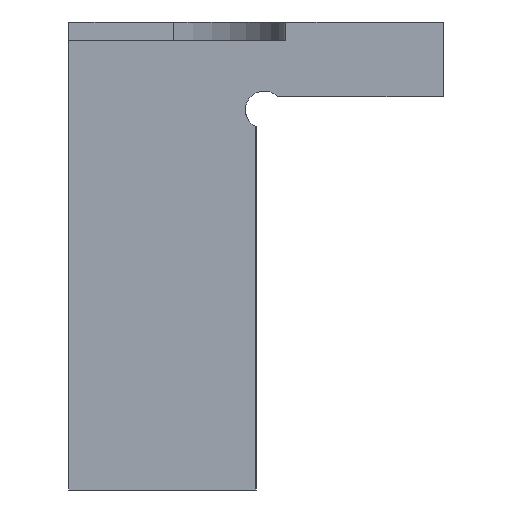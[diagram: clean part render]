
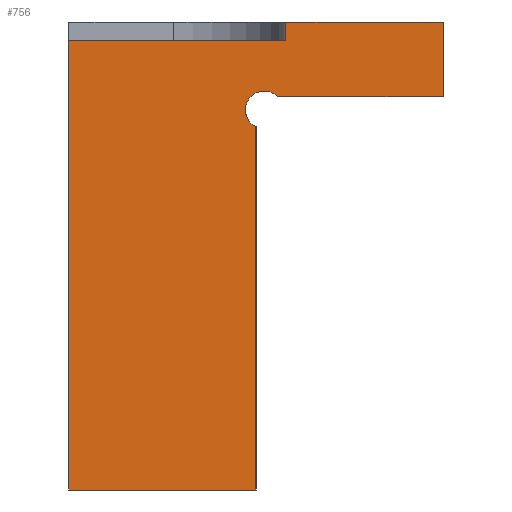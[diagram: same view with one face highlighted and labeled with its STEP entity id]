
A CAD part, front view. The second image highlights one B-rep face of the part: STEP entity #756.
In plain terms, the highlighted planar face has unit normal (0, -1, 0).
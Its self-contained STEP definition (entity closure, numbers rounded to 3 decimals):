
#8 = ORIENTED_EDGE ( 'NONE', *, *, #655, .F. ) ;
#23 = CARTESIAN_POINT ( 'NONE',  ( -29.1, -21.9, -0.5 ) ) ;
#31 = VECTOR ( 'NONE', #223, 1000. ) ;
#33 = VECTOR ( 'NONE', #568, 1000. ) ;
#38 = EDGE_LOOP ( 'NONE', ( #650, #833, #464, #752, #8, #972, #156, #136, #989 ) ) ;
#51 = EDGE_CURVE ( 'NONE', #773, #697, #587, .T. ) ;
#71 = CARTESIAN_POINT ( 'NONE',  ( -24.9, -21.9, 0. ) ) ;
#118 = LINE ( 'NONE', #751, #942 ) ;
#121 = LINE ( 'NONE', #750, #240 ) ;
#123 = AXIS2_PLACEMENT_3D ( 'NONE', #321, #382, #920 ) ;
#136 = ORIENTED_EDGE ( 'NONE', *, *, #51, .T. ) ;
#141 = DIRECTION ( 'NONE',  ( 1., 0., 0. ) ) ;
#142 = LINE ( 'NONE', #791, #458 ) ;
#144 = CARTESIAN_POINT ( 'NONE',  ( -24.9, -21.9, 0. ) ) ;
#153 = EDGE_CURVE ( 'NONE', #460, #778, #118, .T. ) ;
#155 = CIRCLE ( 'NONE', #828, 0.5 ) ;
#156 = ORIENTED_EDGE ( 'NONE', *, *, #466, .F. ) ;
#166 = LINE ( 'NONE', #71, #831 ) ;
#169 = CARTESIAN_POINT ( 'NONE',  ( -29.9, -21.9, -12.5 ) ) ;
#189 = CARTESIAN_POINT ( 'NONE',  ( 0., -21.9, -2. ) ) ;
#198 = VERTEX_POINT ( 'NONE', #689 ) ;
#204 = DIRECTION ( 'NONE',  ( 0., 0., -1. ) ) ;
#223 = DIRECTION ( 'NONE',  ( -1., 0., 0. ) ) ;
#240 = VECTOR ( 'NONE', #204, 1000. ) ;
#303 = DIRECTION ( 'NONE',  ( 0., 0., 1. ) ) ;
#321 = CARTESIAN_POINT ( 'NONE',  ( -24.9, -21.9, -10. ) ) ;
#340 = CARTESIAN_POINT ( 'NONE',  ( -34.9, -21.9, -0.5 ) ) ;
#343 = DIRECTION ( 'NONE',  ( 0., 0., 1. ) ) ;
#375 = EDGE_CURVE ( 'NONE', #778, #697, #166, .T. ) ;
#379 = VECTOR ( 'NONE', #343, 1000. ) ;
#382 = DIRECTION ( 'NONE',  ( 0., -1., 0. ) ) ;
#388 = EDGE_CURVE ( 'NONE', #827, #460, #851, .T. ) ;
#398 = VECTOR ( 'NONE', #141, 1000. ) ;
#400 = CARTESIAN_POINT ( 'NONE',  ( -29.684, -21.9, -2.346 ) ) ;
#458 = VECTOR ( 'NONE', #482, 1000. ) ;
#460 = VERTEX_POINT ( 'NONE', #23 ) ;
#464 = ORIENTED_EDGE ( 'NONE', *, *, #941, .F. ) ;
#466 = EDGE_CURVE ( 'NONE', #773, #667, #508, .T. ) ;
#481 = DIRECTION ( 'NONE',  ( 1., 0., 0. ) ) ;
#482 = DIRECTION ( 'NONE',  ( 0., 0., 1. ) ) ;
#508 = LINE ( 'NONE', #189, #33 ) ;
#547 = CARTESIAN_POINT ( 'NONE',  ( -29.9, -21.9, -12.5 ) ) ;
#551 = LINE ( 'NONE', #547, #31 ) ;
#568 = DIRECTION ( 'NONE',  ( -1., 0., 0. ) ) ;
#587 = LINE ( 'NONE', #889, #379 ) ;
#650 = ORIENTED_EDGE ( 'NONE', *, *, #153, .F. ) ;
#655 = EDGE_CURVE ( 'NONE', #198, #877, #121, .T. ) ;
#667 = VERTEX_POINT ( 'NONE', #983 ) ;
#689 = CARTESIAN_POINT ( 'NONE',  ( -29.9, -21.9, -2.797 ) ) ;
#697 = VERTEX_POINT ( 'NONE', #144 ) ;
#708 = PLANE ( 'NONE',  #123 ) ;
#709 = CARTESIAN_POINT ( 'NONE',  ( -29.1, -21.9, -0.5 ) ) ;
#722 = VERTEX_POINT ( 'NONE', #935 ) ;
#750 = CARTESIAN_POINT ( 'NONE',  ( -29.9, -21.9, 0. ) ) ;
#751 = CARTESIAN_POINT ( 'NONE',  ( -29.1, -21.9, -0.5 ) ) ;
#752 = ORIENTED_EDGE ( 'NONE', *, *, #776, .F. ) ;
#756 = ADVANCED_FACE ( 'NONE', ( #850 ), #708, .T. ) ;
#773 = VERTEX_POINT ( 'NONE', #779 ) ;
#776 = EDGE_CURVE ( 'NONE', #877, #722, #551, .T. ) ;
#778 = VERTEX_POINT ( 'NONE', #843 ) ;
#779 = CARTESIAN_POINT ( 'NONE',  ( -24.9, -21.9, -2. ) ) ;
#791 = CARTESIAN_POINT ( 'NONE',  ( -34.9, -21.9, -10. ) ) ;
#827 = VERTEX_POINT ( 'NONE', #340 ) ;
#828 = AXIS2_PLACEMENT_3D ( 'NONE', #400, #1003, #863 ) ;
#831 = VECTOR ( 'NONE', #481, 1000. ) ;
#833 = ORIENTED_EDGE ( 'NONE', *, *, #388, .F. ) ;
#843 = CARTESIAN_POINT ( 'NONE',  ( -29.1, -21.9, 0. ) ) ;
#850 = FACE_OUTER_BOUND ( 'NONE', #38, .T. ) ;
#851 = LINE ( 'NONE', #709, #398 ) ;
#863 = DIRECTION ( 'NONE',  ( 1., 0., 0. ) ) ;
#877 = VERTEX_POINT ( 'NONE', #169 ) ;
#889 = CARTESIAN_POINT ( 'NONE',  ( -24.9, -21.9, -10. ) ) ;
#912 = EDGE_CURVE ( 'NONE', #667, #198, #155, .T. ) ;
#920 = DIRECTION ( 'NONE',  ( 1., 0., 0. ) ) ;
#935 = CARTESIAN_POINT ( 'NONE',  ( -34.9, -21.9, -12.5 ) ) ;
#941 = EDGE_CURVE ( 'NONE', #722, #827, #142, .T. ) ;
#942 = VECTOR ( 'NONE', #303, 1000. ) ;
#972 = ORIENTED_EDGE ( 'NONE', *, *, #912, .F. ) ;
#983 = CARTESIAN_POINT ( 'NONE',  ( -29.323, -21.9, -2. ) ) ;
#989 = ORIENTED_EDGE ( 'NONE', *, *, #375, .F. ) ;
#1003 = DIRECTION ( 'NONE',  ( 0., -1., 0. ) ) ;
